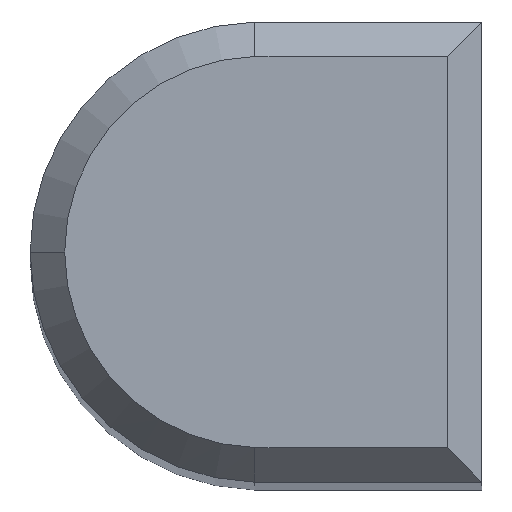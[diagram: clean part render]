
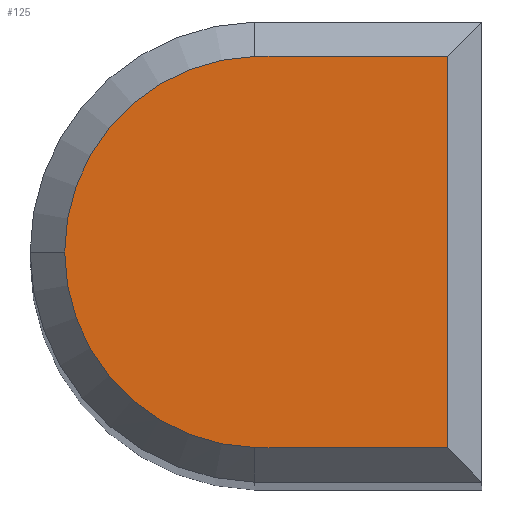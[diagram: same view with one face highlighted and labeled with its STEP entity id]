
A CAD part, top view. The second image highlights one B-rep face of the part: STEP entity #125.
In plain terms, the highlighted planar face has unit normal (0, 0, 1).
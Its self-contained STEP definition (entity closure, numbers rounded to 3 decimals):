
#1 = CARTESIAN_POINT ( 'NONE',  ( -0.093, -3.399, 79.5 ) ) ;
#10 = DIRECTION ( 'NONE',  ( 0., 0., 1. ) ) ;
#16 = VERTEX_POINT ( 'NONE', #273 ) ;
#19 = DIRECTION ( 'NONE',  ( 0., 0., 1. ) ) ;
#26 = LINE ( 'NONE', #93, #165 ) ;
#55 = CARTESIAN_POINT ( 'NONE',  ( 0., 0., 79.5 ) ) ;
#63 = DIRECTION ( 'NONE',  ( 1., 0., 0. ) ) ;
#80 = EDGE_CURVE ( 'NONE', #179, #115, #26, .T. ) ;
#82 = ORIENTED_EDGE ( 'NONE', *, *, #209, .T. ) ;
#85 = DIRECTION ( 'NONE',  ( 1., 0., 0. ) ) ;
#93 = CARTESIAN_POINT ( 'NONE',  ( 3.85, -3.399, 79.5 ) ) ;
#96 = LINE ( 'NONE', #154, #247 ) ;
#97 = DIRECTION ( 'NONE',  ( 0., 0., 1. ) ) ;
#99 = EDGE_LOOP ( 'NONE', ( #333, #330, #404, #82, #251 ) ) ;
#115 = VERTEX_POINT ( 'NONE', #211 ) ;
#125 = ADVANCED_FACE ( 'NONE', ( #230 ), #371, .T. ) ;
#147 = VERTEX_POINT ( 'NONE', #458 ) ;
#154 = CARTESIAN_POINT ( 'NONE',  ( -0.101, 3.399, 79.5 ) ) ;
#158 = EDGE_CURVE ( 'NONE', #147, #409, #223, .T. ) ;
#165 = VECTOR ( 'NONE', #63, 1000. ) ;
#167 = DIRECTION ( 'NONE',  ( 1., 0., 0. ) ) ;
#173 = VECTOR ( 'NONE', #355, 1000. ) ;
#178 = CARTESIAN_POINT ( 'NONE',  ( -3.4, 0., 79.5 ) ) ;
#179 = VERTEX_POINT ( 'NONE', #1 ) ;
#187 = CARTESIAN_POINT ( 'NONE',  ( 0., 0., 79.5 ) ) ;
#194 = DIRECTION ( 'NONE',  ( -1., 0., 0. ) ) ;
#206 = CIRCLE ( 'NONE', #268, 3.4 ) ;
#209 = EDGE_CURVE ( 'NONE', #115, #16, #313, .T. ) ;
#210 = CARTESIAN_POINT ( 'NONE',  ( 0., 0., 79.5 ) ) ;
#211 = CARTESIAN_POINT ( 'NONE',  ( 3.25, -3.399, 79.5 ) ) ;
#223 = CIRCLE ( 'NONE', #419, 3.4 ) ;
#230 = FACE_OUTER_BOUND ( 'NONE', #99, .T. ) ;
#247 = VECTOR ( 'NONE', #194, 1000. ) ;
#251 = ORIENTED_EDGE ( 'NONE', *, *, #450, .T. ) ;
#268 = AXIS2_PLACEMENT_3D ( 'NONE', #187, #10, #85 ) ;
#273 = CARTESIAN_POINT ( 'NONE',  ( 3.25, 3.399, 79.5 ) ) ;
#313 = LINE ( 'NONE', #391, #173 ) ;
#330 = ORIENTED_EDGE ( 'NONE', *, *, #373, .T. ) ;
#333 = ORIENTED_EDGE ( 'NONE', *, *, #158, .T. ) ;
#335 = DIRECTION ( 'NONE',  ( 1., 0., 0. ) ) ;
#355 = DIRECTION ( 'NONE',  ( 0., 1., 0. ) ) ;
#371 = PLANE ( 'NONE',  #426 ) ;
#373 = EDGE_CURVE ( 'NONE', #409, #179, #206, .T. ) ;
#391 = CARTESIAN_POINT ( 'NONE',  ( 3.25, 3.999, 79.5 ) ) ;
#404 = ORIENTED_EDGE ( 'NONE', *, *, #80, .T. ) ;
#409 = VERTEX_POINT ( 'NONE', #178 ) ;
#419 = AXIS2_PLACEMENT_3D ( 'NONE', #210, #97, #167 ) ;
#426 = AXIS2_PLACEMENT_3D ( 'NONE', #55, #19, #335 ) ;
#450 = EDGE_CURVE ( 'NONE', #16, #147, #96, .T. ) ;
#458 = CARTESIAN_POINT ( 'NONE',  ( -0.093, 3.399, 79.5 ) ) ;
